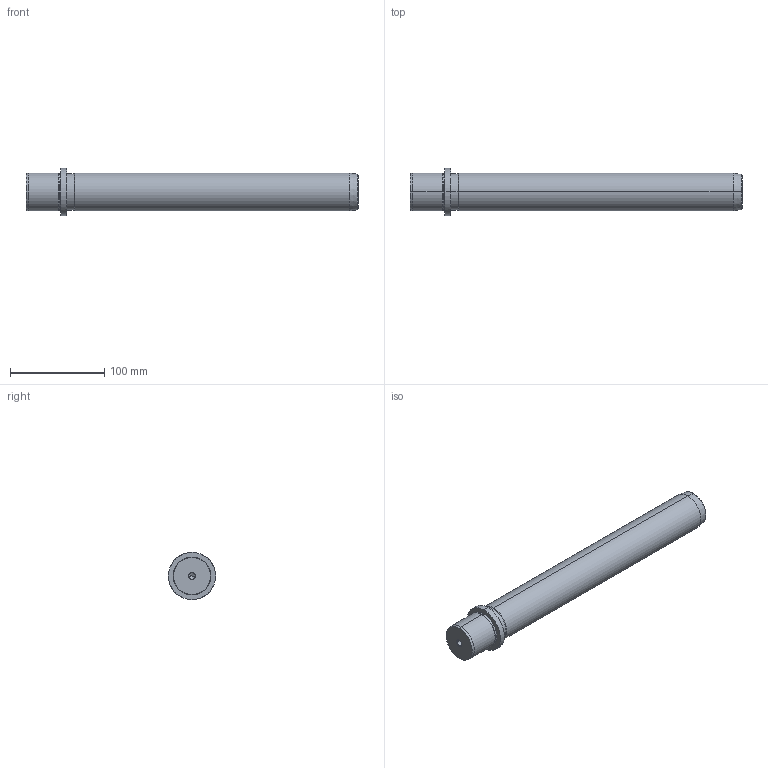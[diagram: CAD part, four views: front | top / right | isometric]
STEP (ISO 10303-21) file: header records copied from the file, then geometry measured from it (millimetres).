
FILE_DESCRIPTION(('CATIA V5 STEP Exchange'),'2;1');
FILE_NAME('C:\Users\Utente\Desktop\IO LAVORO\3D X SITO CF\X SITO\719\719-40x315.stp','2021-01-03T15:25:16+00:00',('none'),('none'),'CATIA Version 5 Release 20 GA (IN-10)','CATIA V5 STEP AP203','none');
FILE_SCHEMA(('CONFIG_CONTROL_DESIGN'));
Length unit declared in the file: millimetre
Products named in the file (1): 719-40x315
Bounding box: 352 x 50 x 50 mm (x, y, z)
Volume: 443318.2 mm3; surface area: 49199.9 mm2
Topology: 1 solids, 1 shells, 36 faces, 100 edges, 66 vertices
Faces by surface type: cone 16, cylinder 14, plane 4, torus 2
Entity records: 1267 total; most frequent: CARTESIAN_POINT 334, ORIENTED_EDGE 192, DIRECTION 159, EDGE_CURVE 96, AXIS2_PLACEMENT_3D 94, VERTEX_POINT 66, CIRCLE 57, EDGE_LOOP 40
